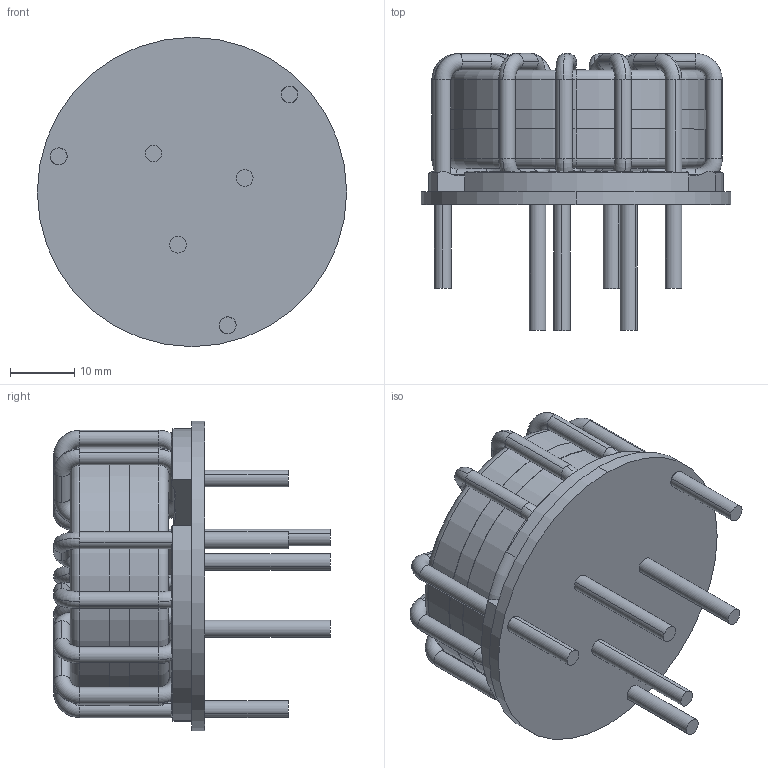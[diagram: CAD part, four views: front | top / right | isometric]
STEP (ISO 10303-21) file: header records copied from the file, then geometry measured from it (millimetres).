
FILE_DESCRIPTION (( 'STEP AP203' ), '1' );
FILE_NAME ('TPW-201U-B30A.STEP', '2020-07-09T10:14:28', ( 'Windows User' ), ( '' ), 'SwSTEP 2.0', 'SolidWorks 2015', '' );
FILE_SCHEMA (( 'CONFIG_CONTROL_DESIGN' ));
Length unit declared in the file: inch
Products named in the file (6): TPW-201U-B30A - COIL; TPW-201U-B30A - CORE; TPW-201U-B30A - SPACER; TPW-201U-B30A - SILICONE; TPW-201U-B30A - FRAME; TPW-201U-B30A
Assembly tree (5 placements, depth 2):
  TPW-201U-B30A
    TPW-201U-B30A - CORE
    TPW-201U-B30A - COIL
    TPW-201U-B30A - FRAME
    TPW-201U-B30A - SILICONE
    TPW-201U-B30A - SPACER
Bounding box: 48.21 x 43.14 x 48.21 mm (x, y, z)
Volume: 23056.2 mm3; surface area: 18934.7 mm2
Topology: 18 solids, 18 shells, 325 faces, 850 edges, 558 vertices
Faces by surface type: cylinder 131, torus 104, plane 51, bspline 39
Entity records: 14011 total; most frequent: CARTESIAN_POINT 5248, DIRECTION 1854, ORIENTED_EDGE 1688, EDGE_CURVE 844, AXIS2_PLACEMENT_3D 842, VERTEX_POINT 558, CIRCLE 548, EDGE_LOOP 342
